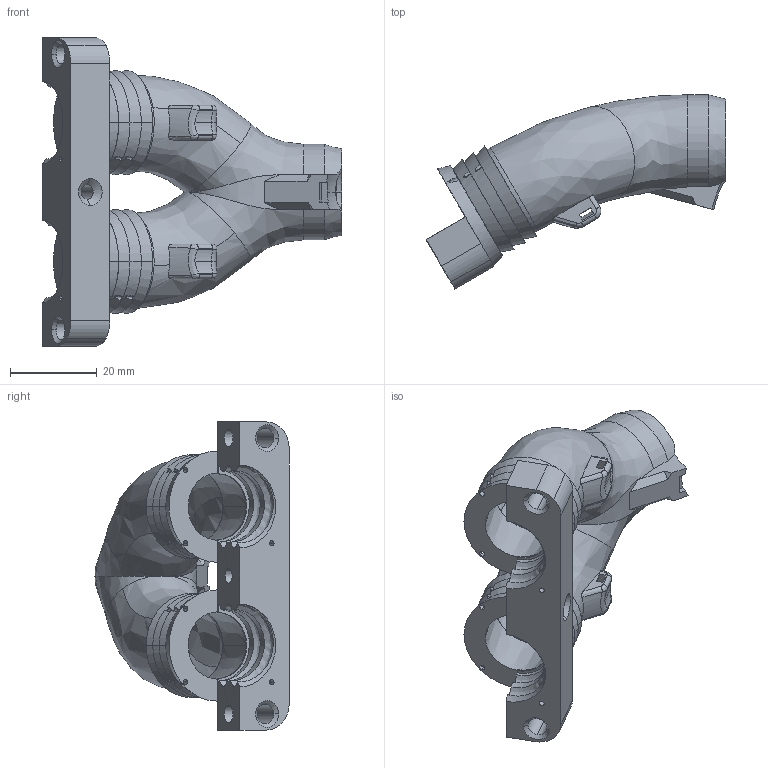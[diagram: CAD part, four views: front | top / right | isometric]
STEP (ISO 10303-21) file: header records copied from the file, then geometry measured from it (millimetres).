
FILE_DESCRIPTION(/* description */ (''),/* implementation_level */ '2;1');
FILE_NAME(/* name */ '1.stp',/* time_stamp */ '2026-03-03T17:41:37+02:00',/* author */ (''),/* organization */ (''),/* preprocessor_version */ 'ST-DEVELOPER v20',/* originating_system */ 'SIEMENS PLM Software NX2412.8300',/* authorisation */ '');
FILE_SCHEMA (('AUTOMOTIVE_DESIGN { 1 0 10303 214 3 1 1 1 }'));
Length unit declared in the file: millimetre
Products named in the file (1): V9-623 - ws7040 splitter.step_1
Bounding box: 68.96 x 44.75 x 71 mm (x, y, z)
Volume: 22432.4 mm3; surface area: 18540.4 mm2
Topology: 1 solids, 1 shells, 362 faces, 1011 edges, 654 vertices
Faces by surface type: cylinder 145, plane 111, bspline 42, cone 40, extrusion 18, torus 6
Entity records: 20914 total; most frequent: CARTESIAN_POINT 12120, ORIENTED_EDGE 2014, DIRECTION 1621, EDGE_CURVE 1007, VERTEX_POINT 654, AXIS2_PLACEMENT_3D 647, EDGE_LOOP 397, ADVANCED_FACE 362
